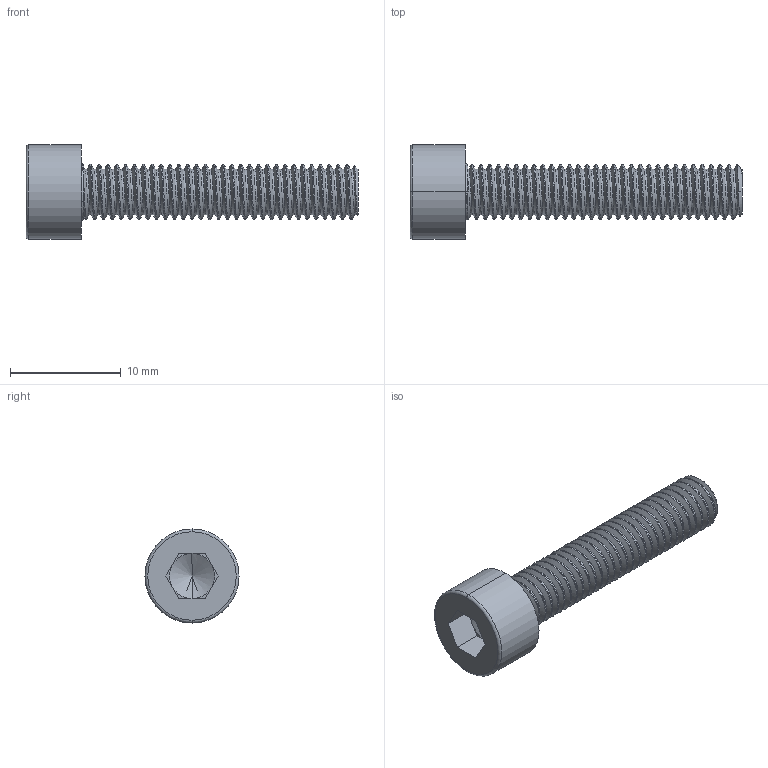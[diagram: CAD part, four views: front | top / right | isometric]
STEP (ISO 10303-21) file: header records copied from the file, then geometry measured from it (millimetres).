
FILE_DESCRIPTION (( 'STEP AP203' ), '1' );
FILE_NAME ('Ì5õ25_DIN912.STEP', '2025-11-19T05:15:34', ( '' ), ( '' ), 'SwSTEP 2.0', 'SolidWorks 2022', '' );
FILE_SCHEMA (( 'CONFIG_CONTROL_DESIGN' ));
Length unit declared in the file: millimetre
Products named in the file (1): М5х25_DIN912
Bounding box: 30 x 8.5 x 8.5 mm (x, y, z)
Volume: 643.9 mm3; surface area: 862.8 mm2
Topology: 1 solids, 1 shells, 92 faces, 254 edges, 164 vertices
Faces by surface type: cylinder 64, plane 16, cone 4, torus 4, bspline 4
Entity records: 11404 total; most frequent: CARTESIAN_POINT 9322, ORIENTED_EDGE 504, DIRECTION 321, EDGE_CURVE 252, VERTEX_POINT 164, AXIS2_PLACEMENT_3D 114, EDGE_LOOP 94, VECTOR 93
